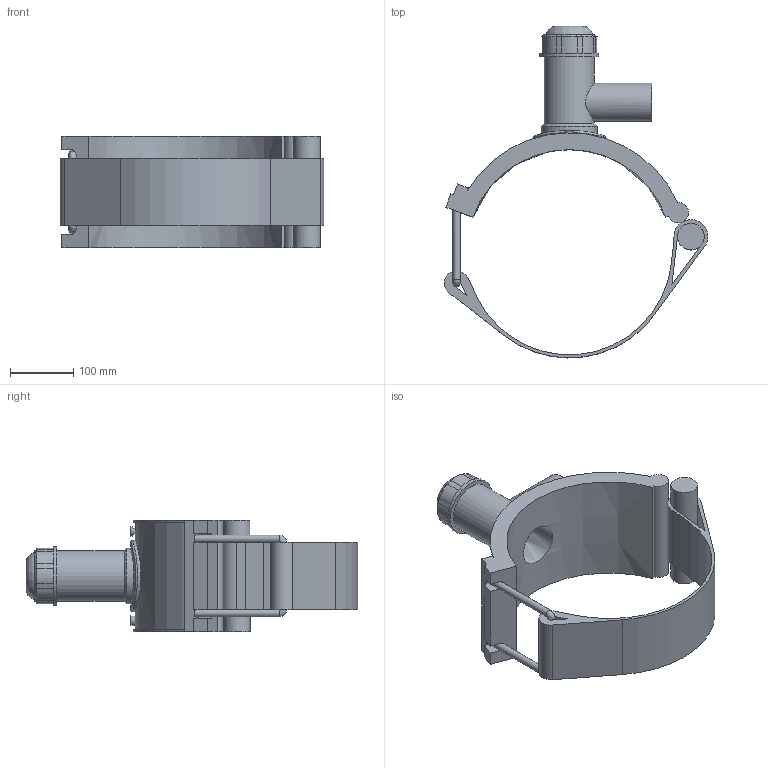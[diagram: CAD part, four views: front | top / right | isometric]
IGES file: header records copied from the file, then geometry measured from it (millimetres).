
Global section: file name: 5913BB03120020.ipt; native system: Autodesk Inventor 2019; preprocessor: unknown; author: KIM; date: 20210830.101046; units: millimetre
Bounding box: 415.47 x 523.04 x 176.02 mm (x, y, z)
Volume: 3311584.5 mm3; surface area: 502152.5 mm2
Topology: 2 solids, 2 shells, 123 faces, 310 edges, 192 vertices
Faces by surface type: plane 69, cylinder 28, revolution 12, cone 11, bspline 3
Full cylindrical faces by diameter (mm): 4 x2, 11.642 x2, 42.042 x1, 60.1 x1, 78.893 x1, 88.175 x1, 92.816 x1, 113.19 x1
